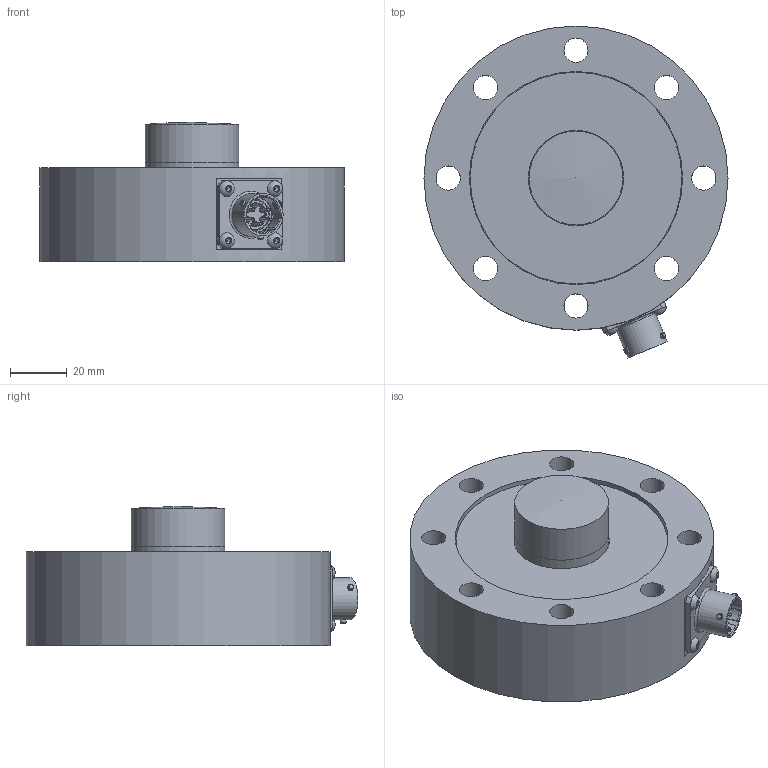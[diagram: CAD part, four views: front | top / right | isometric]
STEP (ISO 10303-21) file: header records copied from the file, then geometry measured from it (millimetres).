
FILE_DESCRIPTION(/* description */ (''),/* implementation_level */ '2;1');
FILE_NAME(/* name */ 'DSCC Size 1 Space Model with load button v1 v7.step',/* time_stamp */ '2023-02-03T10:05:17Z',/* author */ (''),/* organization */ (''),/* preprocessor_version */ 'ST-DEVELOPER v19.2',/* originating_system */ 'Autodesk Translation Framework v11.17.0.187',/* authorisation */ '');
FILE_SCHEMA (('AUTOMOTIVE_DESIGN { 1 0 10303 214 3 1 1 }'));
Length unit declared in the file: millimetre
Products named in the file (15): DSCC Size 1 Space Model with load button v1; DSCC Size 1 Space Model Body; CONN-02004 - 6-pin bayonet LMH-02A-1006-PN241 with screws; Component1; SCREW-3-006 - M3x6 A2 stainless socket button; SCREW-3-006 - M3x6 A2 stainless socket button_1; SCREW-3-006 - M3x6 A2 stainless socket button_2; SCREW-3-006 - M3x6 A2 stainless socket button_3; SCREW-3-006 - M3x6 A2 stainless socket button_4; SCREW-3-006 - M3x6 A2 stainless socket button_5; SCREW-3-006 - M3x6 A2 stainless socket button_6; SCREW-3-006 - M3x6 A2 stainless socket button_7; Component1_1; DSCC-91903-1 - Standard Size 1 cover; DSCC Size 1 Load Button
Assembly tree (22 placements, depth 4):
  DSCC Size 1 Space Model with load button v1
    DSCC Size 1 Space Model Body
    CONN-02004 - 6-pin bayonet LMH-02A-1006-PN241 with screws
      Component1
      SCREW-3-006 - M3x6 A2 stainless socket button
        Component1_1
      SCREW-3-006 - M3x6 A2 stainless socket button_1
        Component1_1
      SCREW-3-006 - M3x6 A2 stainless socket button_2
        Component1_1
      SCREW-3-006 - M3x6 A2 stainless socket button_3
        Component1_1
    SCREW-3-006 - M3x6 A2 stainless socket button_4
      Component1_1
    SCREW-3-006 - M3x6 A2 stainless socket button_5
      Component1_1
    SCREW-3-006 - M3x6 A2 stainless socket button_6
      Component1_1
    SCREW-3-006 - M3x6 A2 stainless socket button_7
      Component1_1
    DSCC-91903-1 - Standard Size 1 cover  x2
    DSCC Size 1 Load Button
Bounding box: 107 x 116.79 x 49 mm (x, y, z)
Volume: 266373.8 mm3; surface area: 66229.2 mm2
Topology: 13 solids, 20 shells, 654 faces, 1589 edges, 1039 vertices
Faces by surface type: plane 283, cylinder 184, bspline 83, cone 49, sphere 29, torus 26
Full cylindrical faces by diameter (mm): 1 x3, 1.009 x6, 1.165 x6, 1.2 x6, 1.4 x6, 1.52 x3, 1.6 x3, 2 x12, 2.03 x3, 2.2 x12, 2.529 x3, 3 x9, 3.2 x4, 8.5 x8, 10.25 x2, 10.9 x1, 11.05 x1, 11.35 x1, 12.55 x1, 13.85 x1, 13.9 x1, 14 x1, 14.95 x1, 15 x1, 16.938 x10, 17.519 x12, 19.791 x10, 20.293 x12, 22 x1, 33 x3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
Entity records: 24287 total; most frequent: CARTESIAN_POINT 10968, ORIENTED_EDGE 2676, DIRECTION 2374, EDGE_CURVE 1338, VERTEX_POINT 887, AXIS2_PLACEMENT_3D 852, LINE 670, VECTOR 670
